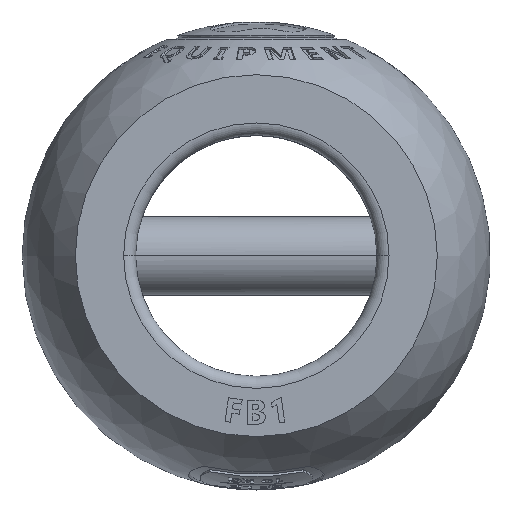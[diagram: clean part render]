
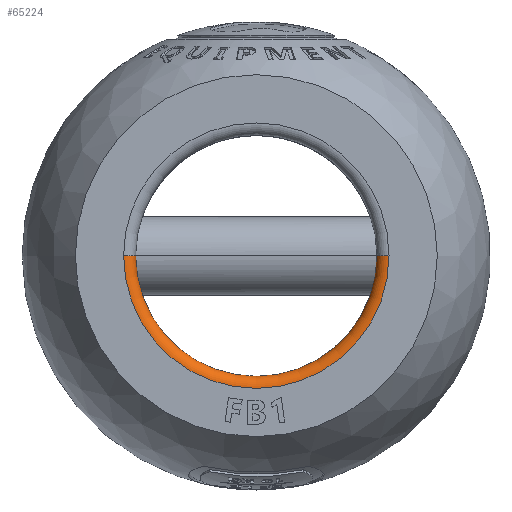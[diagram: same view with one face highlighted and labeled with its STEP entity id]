
A CAD part, top view. The second image highlights one B-rep face of the part: STEP entity #65224.
In plain terms, the highlighted toroidal (fillet/blend) face has major radius 55 mm and minor radius 5 mm.
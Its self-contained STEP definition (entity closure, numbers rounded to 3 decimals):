
#1660 = DIRECTION ( 'NONE',  ( -1., 0., 0. ) ) ;
#6543 = DIRECTION ( 'NONE',  ( 0., 1., 0. ) ) ;
#8065 = AXIS2_PLACEMENT_3D ( 'NONE', #48722, #25727, #24251 ) ;
#11358 = TOROIDAL_SURFACE ( 'NONE', #46459, 55., 5. ) ;
#12821 = EDGE_CURVE ( 'NONE', #70304, #44552, #35111, .T. ) ;
#14405 = AXIS2_PLACEMENT_3D ( 'NONE', #27919, #41955, #95973 ) ;
#14407 = CARTESIAN_POINT ( 'NONE',  ( 0., 0., 56.514 ) ) ;
#15908 = AXIS2_PLACEMENT_3D ( 'NONE', #39645, #64142, #1660 ) ;
#16793 = CARTESIAN_POINT ( 'NONE',  ( -55., 0., 61.514 ) ) ;
#18352 = EDGE_CURVE ( 'NONE', #44552, #80226, #70226, .T. ) ;
#22403 = FACE_OUTER_BOUND ( 'NONE', #33427, .T. ) ;
#24251 = DIRECTION ( 'NONE',  ( -1., 0., 0. ) ) ;
#25727 = DIRECTION ( 'NONE',  ( 0., 0., 1. ) ) ;
#27919 = CARTESIAN_POINT ( 'NONE',  ( -55., 0., 56.514 ) ) ;
#33427 = EDGE_LOOP ( 'NONE', ( #86863, #58089, #65538, #98002 ) ) ;
#33492 = EDGE_CURVE ( 'NONE', #41527, #80226, #86308, .T. ) ;
#35012 = CARTESIAN_POINT ( 'NONE',  ( -50., 0., 56.514 ) ) ;
#35111 = CIRCLE ( 'NONE', #55799, 5. ) ;
#39645 = CARTESIAN_POINT ( 'NONE',  ( 0., 0., 61.514 ) ) ;
#41183 = CARTESIAN_POINT ( 'NONE',  ( 50., 0., 56.514 ) ) ;
#41527 = VERTEX_POINT ( 'NONE', #35012 ) ;
#41955 = DIRECTION ( 'NONE',  ( 0., -1., 0. ) ) ;
#44552 = VERTEX_POINT ( 'NONE', #84331 ) ;
#44907 = DIRECTION ( 'NONE',  ( 0., 0., -1. ) ) ;
#46459 = AXIS2_PLACEMENT_3D ( 'NONE', #14407, #44907, #75430 ) ;
#46969 = EDGE_CURVE ( 'NONE', #41527, #70304, #48011, .T. ) ;
#48011 = CIRCLE ( 'NONE', #8065, 50. ) ;
#48722 = CARTESIAN_POINT ( 'NONE',  ( 0., 0., 56.514 ) ) ;
#55799 = AXIS2_PLACEMENT_3D ( 'NONE', #75041, #6543, #74553 ) ;
#58089 = ORIENTED_EDGE ( 'NONE', *, *, #46969, .F. ) ;
#64142 = DIRECTION ( 'NONE',  ( 0., 0., -1. ) ) ;
#65224 = ADVANCED_FACE ( 'NONE', ( #22403 ), #11358, .T. ) ;
#65538 = ORIENTED_EDGE ( 'NONE', *, *, #33492, .T. ) ;
#70226 = CIRCLE ( 'NONE', #15908, 55. ) ;
#70304 = VERTEX_POINT ( 'NONE', #41183 ) ;
#74553 = DIRECTION ( 'NONE',  ( -1., 0., 0. ) ) ;
#75041 = CARTESIAN_POINT ( 'NONE',  ( 55., 0., 56.514 ) ) ;
#75430 = DIRECTION ( 'NONE',  ( -1., 0., 0. ) ) ;
#80226 = VERTEX_POINT ( 'NONE', #16793 ) ;
#84331 = CARTESIAN_POINT ( 'NONE',  ( 55., 0., 61.514 ) ) ;
#86308 = CIRCLE ( 'NONE', #14405, 5. ) ;
#86863 = ORIENTED_EDGE ( 'NONE', *, *, #12821, .F. ) ;
#95973 = DIRECTION ( 'NONE',  ( 0., 0., -1. ) ) ;
#98002 = ORIENTED_EDGE ( 'NONE', *, *, #18352, .F. ) ;
